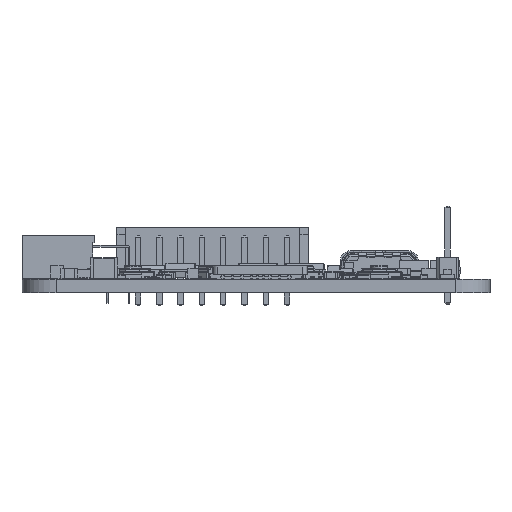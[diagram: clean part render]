
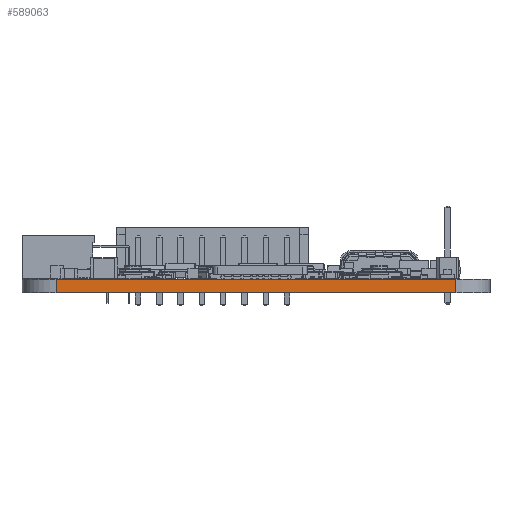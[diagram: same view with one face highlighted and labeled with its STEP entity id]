
A CAD part, front view. The second image highlights one B-rep face of the part: STEP entity #589063.
In plain terms, the highlighted planar face has unit normal (0, -1, 0).
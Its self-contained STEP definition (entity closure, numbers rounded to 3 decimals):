
#588880 = CYLINDRICAL_SURFACE('',#588881,4.);
#588881 = AXIS2_PLACEMENT_3D('',#588882,#588883,#588884);
#588882 = CARTESIAN_POINT('',(-22.525,-37.525,0.));
#588883 = DIRECTION('',(0.,0.,-1.));
#588884 = DIRECTION('',(1.,0.,0.));
#588905 = VERTEX_POINT('',#588906);
#588906 = CARTESIAN_POINT('',(-22.525,-41.525,1.6));
#588921 = PLANE('',#588922);
#588922 = AXIS2_PLACEMENT_3D('',#588923,#588924,#588925);
#588923 = CARTESIAN_POINT('',(0.975,0.975,1.6));
#588924 = DIRECTION('',(0.,0.,1.));
#588925 = DIRECTION('',(1.,0.,0.));
#588933 = EDGE_CURVE('',#588934,#588905,#588936,.T.);
#588934 = VERTEX_POINT('',#588935);
#588935 = CARTESIAN_POINT('',(-22.525,-41.525,0.));
#588936 = SURFACE_CURVE('',#588937,(#588941,#588948),.PCURVE_S1.);
#588937 = LINE('',#588938,#588939);
#588938 = CARTESIAN_POINT('',(-22.525,-41.525,0.));
#588939 = VECTOR('',#588940,1.);
#588940 = DIRECTION('',(0.,0.,1.));
#588941 = PCURVE('',#588880,#588942);
#588942 = DEFINITIONAL_REPRESENTATION('',(#588943),#588947);
#588943 = LINE('',#588944,#588945);
#588944 = CARTESIAN_POINT('',(-4.712,0.));
#588945 = VECTOR('',#588946,1.);
#588946 = DIRECTION('',(0.,-1.));
#588947 = ( GEOMETRIC_REPRESENTATION_CONTEXT(2) 
PARAMETRIC_REPRESENTATION_CONTEXT() REPRESENTATION_CONTEXT('2D SPACE',''
  ) );
#588948 = PCURVE('',#588949,#588954);
#588949 = PLANE('',#588950);
#588950 = AXIS2_PLACEMENT_3D('',#588951,#588952,#588953);
#588951 = CARTESIAN_POINT('',(-22.525,-41.525,0.));
#588952 = DIRECTION('',(0.,1.,0.));
#588953 = DIRECTION('',(1.,0.,0.));
#588954 = DEFINITIONAL_REPRESENTATION('',(#588955),#588959);
#588955 = LINE('',#588956,#588957);
#588956 = CARTESIAN_POINT('',(0.,0.));
#588957 = VECTOR('',#588958,1.);
#588958 = DIRECTION('',(0.,-1.));
#588959 = ( GEOMETRIC_REPRESENTATION_CONTEXT(2) 
PARAMETRIC_REPRESENTATION_CONTEXT() REPRESENTATION_CONTEXT('2D SPACE',''
  ) );
#588976 = PLANE('',#588977);
#588977 = AXIS2_PLACEMENT_3D('',#588978,#588979,#588980);
#588978 = CARTESIAN_POINT('',(0.975,0.975,0.));
#588979 = DIRECTION('',(0.,0.,1.));
#588980 = DIRECTION('',(1.,0.,0.));
#589063 = ADVANCED_FACE('',(#589064),#588949,.F.);
#589064 = FACE_BOUND('',#589065,.F.);
#589065 = EDGE_LOOP('',(#589066,#589067,#589090,#589118));
#589066 = ORIENTED_EDGE('',*,*,#588933,.T.);
#589067 = ORIENTED_EDGE('',*,*,#589068,.T.);
#589068 = EDGE_CURVE('',#588905,#589069,#589071,.T.);
#589069 = VERTEX_POINT('',#589070);
#589070 = CARTESIAN_POINT('',(24.475,-41.525,1.6));
#589071 = SURFACE_CURVE('',#589072,(#589076,#589083),.PCURVE_S1.);
#589072 = LINE('',#589073,#589074);
#589073 = CARTESIAN_POINT('',(-22.525,-41.525,1.6));
#589074 = VECTOR('',#589075,1.);
#589075 = DIRECTION('',(1.,0.,0.));
#589076 = PCURVE('',#588949,#589077);
#589077 = DEFINITIONAL_REPRESENTATION('',(#589078),#589082);
#589078 = LINE('',#589079,#589080);
#589079 = CARTESIAN_POINT('',(0.,-1.6));
#589080 = VECTOR('',#589081,1.);
#589081 = DIRECTION('',(1.,0.));
#589082 = ( GEOMETRIC_REPRESENTATION_CONTEXT(2) 
PARAMETRIC_REPRESENTATION_CONTEXT() REPRESENTATION_CONTEXT('2D SPACE',''
  ) );
#589083 = PCURVE('',#588921,#589084);
#589084 = DEFINITIONAL_REPRESENTATION('',(#589085),#589089);
#589085 = LINE('',#589086,#589087);
#589086 = CARTESIAN_POINT('',(-23.5,-42.5));
#589087 = VECTOR('',#589088,1.);
#589088 = DIRECTION('',(1.,0.));
#589089 = ( GEOMETRIC_REPRESENTATION_CONTEXT(2) 
PARAMETRIC_REPRESENTATION_CONTEXT() REPRESENTATION_CONTEXT('2D SPACE',''
  ) );
#589090 = ORIENTED_EDGE('',*,*,#589091,.F.);
#589091 = EDGE_CURVE('',#589092,#589069,#589094,.T.);
#589092 = VERTEX_POINT('',#589093);
#589093 = CARTESIAN_POINT('',(24.475,-41.525,0.));
#589094 = SURFACE_CURVE('',#589095,(#589099,#589106),.PCURVE_S1.);
#589095 = LINE('',#589096,#589097);
#589096 = CARTESIAN_POINT('',(24.475,-41.525,0.));
#589097 = VECTOR('',#589098,1.);
#589098 = DIRECTION('',(0.,0.,1.));
#589099 = PCURVE('',#588949,#589100);
#589100 = DEFINITIONAL_REPRESENTATION('',(#589101),#589105);
#589101 = LINE('',#589102,#589103);
#589102 = CARTESIAN_POINT('',(47.,0.));
#589103 = VECTOR('',#589104,1.);
#589104 = DIRECTION('',(0.,-1.));
#589105 = ( GEOMETRIC_REPRESENTATION_CONTEXT(2) 
PARAMETRIC_REPRESENTATION_CONTEXT() REPRESENTATION_CONTEXT('2D SPACE',''
  ) );
#589106 = PCURVE('',#589107,#589112);
#589107 = CYLINDRICAL_SURFACE('',#589108,4.);
#589108 = AXIS2_PLACEMENT_3D('',#589109,#589110,#589111);
#589109 = CARTESIAN_POINT('',(24.475,-37.525,0.));
#589110 = DIRECTION('',(0.,0.,-1.));
#589111 = DIRECTION('',(1.,0.,0.));
#589112 = DEFINITIONAL_REPRESENTATION('',(#589113),#589117);
#589113 = LINE('',#589114,#589115);
#589114 = CARTESIAN_POINT('',(-4.712,0.));
#589115 = VECTOR('',#589116,1.);
#589116 = DIRECTION('',(0.,-1.));
#589117 = ( GEOMETRIC_REPRESENTATION_CONTEXT(2) 
PARAMETRIC_REPRESENTATION_CONTEXT() REPRESENTATION_CONTEXT('2D SPACE',''
  ) );
#589118 = ORIENTED_EDGE('',*,*,#589119,.F.);
#589119 = EDGE_CURVE('',#588934,#589092,#589120,.T.);
#589120 = SURFACE_CURVE('',#589121,(#589125,#589132),.PCURVE_S1.);
#589121 = LINE('',#589122,#589123);
#589122 = CARTESIAN_POINT('',(-22.525,-41.525,0.));
#589123 = VECTOR('',#589124,1.);
#589124 = DIRECTION('',(1.,0.,0.));
#589125 = PCURVE('',#588949,#589126);
#589126 = DEFINITIONAL_REPRESENTATION('',(#589127),#589131);
#589127 = LINE('',#589128,#589129);
#589128 = CARTESIAN_POINT('',(0.,0.));
#589129 = VECTOR('',#589130,1.);
#589130 = DIRECTION('',(1.,0.));
#589131 = ( GEOMETRIC_REPRESENTATION_CONTEXT(2) 
PARAMETRIC_REPRESENTATION_CONTEXT() REPRESENTATION_CONTEXT('2D SPACE',''
  ) );
#589132 = PCURVE('',#588976,#589133);
#589133 = DEFINITIONAL_REPRESENTATION('',(#589134),#589138);
#589134 = LINE('',#589135,#589136);
#589135 = CARTESIAN_POINT('',(-23.5,-42.5));
#589136 = VECTOR('',#589137,1.);
#589137 = DIRECTION('',(1.,0.));
#589138 = ( GEOMETRIC_REPRESENTATION_CONTEXT(2) 
PARAMETRIC_REPRESENTATION_CONTEXT() REPRESENTATION_CONTEXT('2D SPACE',''
  ) );
